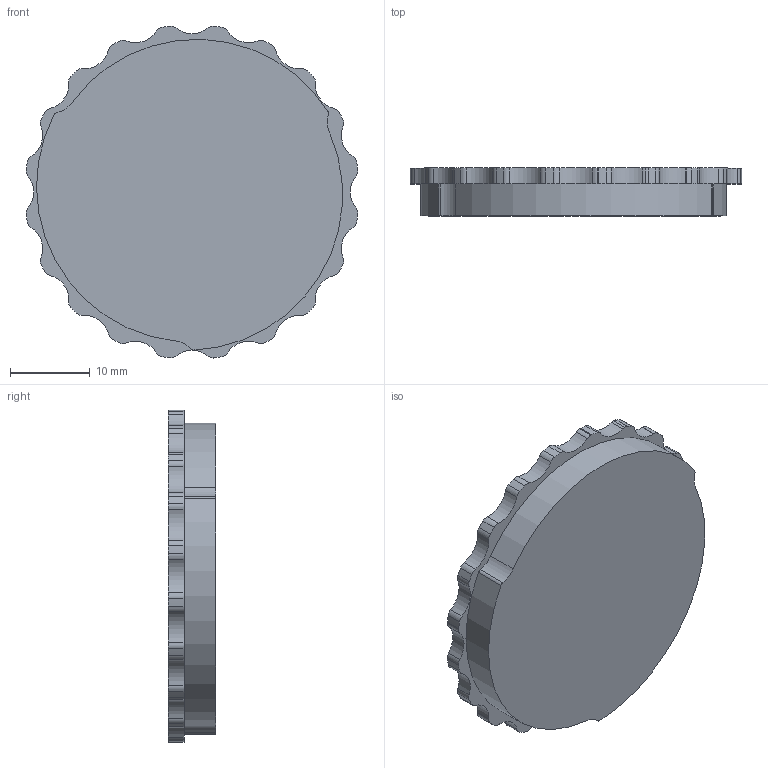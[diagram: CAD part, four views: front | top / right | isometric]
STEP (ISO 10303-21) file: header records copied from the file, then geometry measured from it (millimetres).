
FILE_DESCRIPTION(('HOOPS Exchange Step'),'2;1');
FILE_NAME('/var/opt/conversions/187691/148588/circular-plate-conversion.step','2023-05-03T09:58:35+00:00',('root'),('Unknown organisation'),'HOOPS Exchange 2022.1','HOOPS Exchange','Unknown authorisation');
FILE_SCHEMA( ('AP242_MANAGED_MODEL_BASED_3D_ENGINEERING_MIM_LF {1 0 10303 442 1 1 4 }') );
Length unit declared in the file: millimetre
Products named in the file (2): Standard; circular-plate-step-download
Assembly tree (1 placements, depth 2):
  circular-plate-step-download
    Standard
Bounding box: 41.64 x 6 x 41.64 mm (x, y, z)
Volume: 7264.5 mm3; surface area: 3389.7 mm2
Topology: 1 solids, 1 shells, 103 faces, 343 edges, 357 vertices
Faces by surface type: cylinder 100, plane 3
Entity records: 4378 total; most frequent: DIRECTION 855, CARTESIAN_POINT 788, ORIENTED_EDGE 600, AXIS2_PLACEMENT_3D 372, EDGE_CURVE 300, CIRCLE 232, VERTEX_POINT 200, STYLED_ITEM 138
